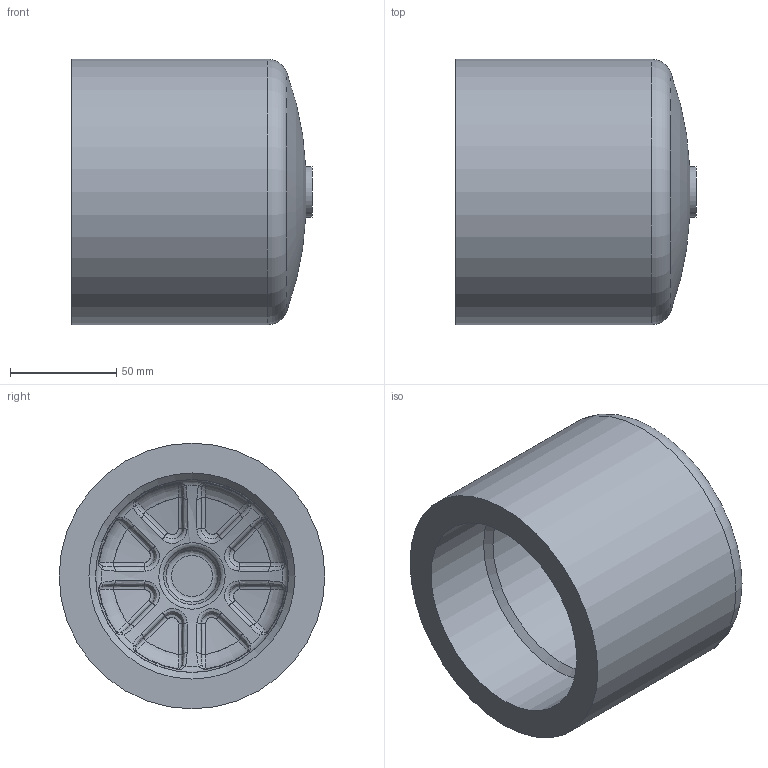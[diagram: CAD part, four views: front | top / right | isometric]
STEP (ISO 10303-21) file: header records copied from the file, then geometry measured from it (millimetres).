
FILE_DESCRIPTION(/* description */ ('Unknown'),/* implementation_level */ '2;1');
FILE_NAME(/* name */ 'CAP125G',/* time_stamp */ '2022-04-02T10:06:15+02:00',/* author */ ('Unknown'),/* organization */ ('Unknown'),/* preprocessor_version */ 'ST-DEVELOPER v18.1',/* originating_system */ 'Solid Edge',/* authorisation */ 'Unknown');
FILE_SCHEMA (('AUTOMOTIVE_DESIGN {1 0 10303 214 3 1 1}'));
Length unit declared in the file: millimetre
Products named in the file (1): CAP125G
Bounding box: 113 x 125 x 125 mm (x, y, z)
Volume: 676583.5 mm3; surface area: 88148.8 mm2
Topology: 1 solids, 1 shells, 177 faces, 402 edges, 228 vertices
Faces by surface type: bspline 96, torus 46, sphere 26, cylinder 4, plane 3, cone 2
Full cylindrical faces by diameter (mm): 24 x1, 90.8 x1, 97 x1, 125 x1
Entity records: 6246 total; most frequent: CARTESIAN_POINT 2893, ORIENTED_EDGE 764, DIRECTION 622, EDGE_CURVE 382, AXIS2_PLACEMENT_3D 311, CIRCLE 230, VERTEX_POINT 222, EDGE_LOOP 190
